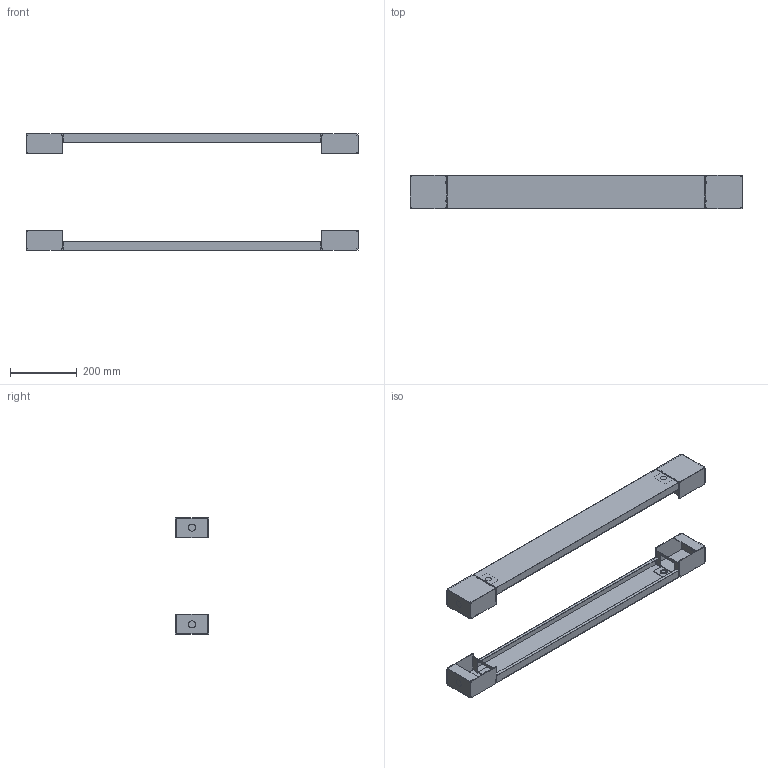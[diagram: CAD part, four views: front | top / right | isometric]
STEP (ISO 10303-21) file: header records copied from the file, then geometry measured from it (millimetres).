
FILE_DESCRIPTION( ( 'STEP AP214' ), '1' );
FILE_NAME( 'p:/temp/worker_202/temp/exporttempdir_4084_135_e12AY/format_0/PFS1100(0).stp', '2021-03-16T11:20:38', ( 'License CC BY-ND 4.0' ), ( 'CADENAS' ), ' ', 'PARTsolutions', ' ' );
FILE_SCHEMA( ( 'AUTOMOTIVE_DESIGN { 1 0 10303 214 1 1 1 1 }' ) );
Length unit declared in the file: millimetre
Products named in the file (3): PFS1100(0); _PSF1100(0)_P1; _PSF1100(0)_P4
Assembly tree (6 placements, depth 2):
  PFS1100(0)
    _PSF1100(0)_P1  x2
    _PSF1100(0)_P4  x4
Bounding box: 996.1 x 100 x 350 mm (x, y, z)
Volume: 680543.4 mm3; surface area: 815832.8 mm2
Topology: 6 solids, 6 shells, 276 faces, 836 edges, 560 vertices
Faces by surface type: plane 264, torus 8, cylinder 4
Full cylindrical faces by diameter (mm): 18 x4
Entity records: 3242 total; most frequent: CARTESIAN_POINT 461, ORIENTED_EDGE 448, DIRECTION 402, EDGE_CURVE 224, LINE 216, VECTOR 216, VERTEX_POINT 152, AXIS2_PLACEMENT_3D 93
